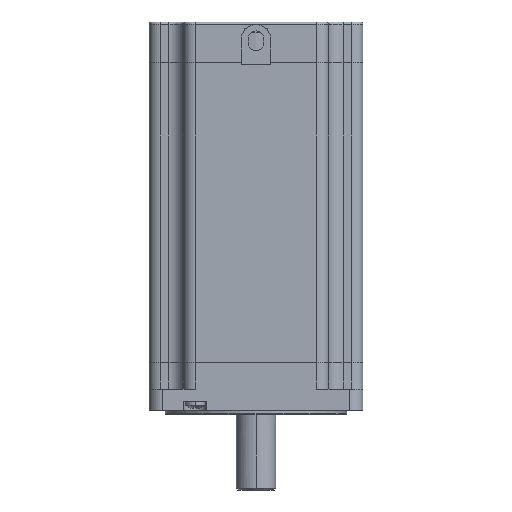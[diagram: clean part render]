
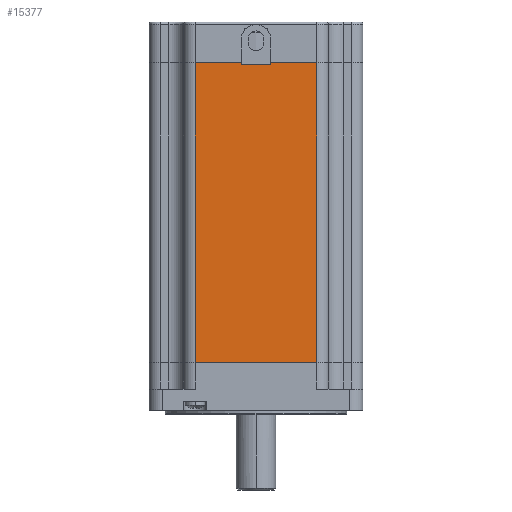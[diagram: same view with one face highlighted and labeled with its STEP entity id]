
A CAD part, left-side view. The second image highlights one B-rep face of the part: STEP entity #15377.
In plain terms, the highlighted planar face has unit normal (-1, 0, 0).
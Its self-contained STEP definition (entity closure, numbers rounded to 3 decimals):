
#44 = EDGE_CURVE ( 'NONE', #12743, #25040, #9300, .T. ) ;
#1493 = AXIS2_PLACEMENT_3D ( 'NONE', #1695, #45727, #40687 ) ;
#1574 = EDGE_CURVE ( 'NONE', #27940, #34876, #39795, .T. ) ;
#1695 = CARTESIAN_POINT ( 'NONE',  ( -42.87, -24.5, 120.4 ) ) ;
#3076 = CARTESIAN_POINT ( 'NONE',  ( -42.87, -24.5, 0. ) ) ;
#3503 = EDGE_LOOP ( 'NONE', ( #37563, #27584, #20165, #7055 ) ) ;
#6716 = PLANE ( 'NONE',  #1493 ) ;
#7055 = ORIENTED_EDGE ( 'NONE', *, *, #34725, .T. ) ;
#7161 = CARTESIAN_POINT ( 'NONE',  ( -42.87, 24.5, 120.4 ) ) ;
#9300 = LINE ( 'NONE', #3076, #44934 ) ;
#10636 = CARTESIAN_POINT ( 'NONE',  ( -42.87, -24.5, 120.4 ) ) ;
#12437 = VECTOR ( 'NONE', #27811, 1000. ) ;
#12743 = VERTEX_POINT ( 'NONE', #15348 ) ;
#14021 = CARTESIAN_POINT ( 'NONE',  ( -42.87, -24.5, 0. ) ) ;
#15348 = CARTESIAN_POINT ( 'NONE',  ( -42.87, 24.5, 0. ) ) ;
#15377 = ADVANCED_FACE ( 'NONE', ( #47994 ), #6716, .F. ) ;
#20165 = ORIENTED_EDGE ( 'NONE', *, *, #1574, .F. ) ;
#24270 = DIRECTION ( 'NONE',  ( 0., 0., -1. ) ) ;
#25040 = VERTEX_POINT ( 'NONE', #14021 ) ;
#27584 = ORIENTED_EDGE ( 'NONE', *, *, #48252, .F. ) ;
#27811 = DIRECTION ( 'NONE',  ( 0., 0., -1. ) ) ;
#27940 = VERTEX_POINT ( 'NONE', #7161 ) ;
#29256 = CARTESIAN_POINT ( 'NONE',  ( -42.87, -24.5, 120.4 ) ) ;
#29732 = DIRECTION ( 'NONE',  ( 0., -1., 0. ) ) ;
#32812 = CARTESIAN_POINT ( 'NONE',  ( -42.87, 24.5, 120.4 ) ) ;
#34280 = LINE ( 'NONE', #29256, #44233 ) ;
#34725 = EDGE_CURVE ( 'NONE', #27940, #12743, #37836, .T. ) ;
#34768 = CARTESIAN_POINT ( 'NONE',  ( -42.87, -24.5, 120.4 ) ) ;
#34876 = VERTEX_POINT ( 'NONE', #10636 ) ;
#37563 = ORIENTED_EDGE ( 'NONE', *, *, #44, .T. ) ;
#37836 = LINE ( 'NONE', #32812, #12437 ) ;
#39795 = LINE ( 'NONE', #34768, #45345 ) ;
#40687 = DIRECTION ( 'NONE',  ( 0., 0., -1. ) ) ;
#44233 = VECTOR ( 'NONE', #24270, 1000. ) ;
#44934 = VECTOR ( 'NONE', #47121, 1000. ) ;
#45345 = VECTOR ( 'NONE', #29732, 1000. ) ;
#45727 = DIRECTION ( 'NONE',  ( 1., 0., 0. ) ) ;
#47121 = DIRECTION ( 'NONE',  ( 0., -1., 0. ) ) ;
#47994 = FACE_OUTER_BOUND ( 'NONE', #3503, .T. ) ;
#48252 = EDGE_CURVE ( 'NONE', #34876, #25040, #34280, .T. ) ;
